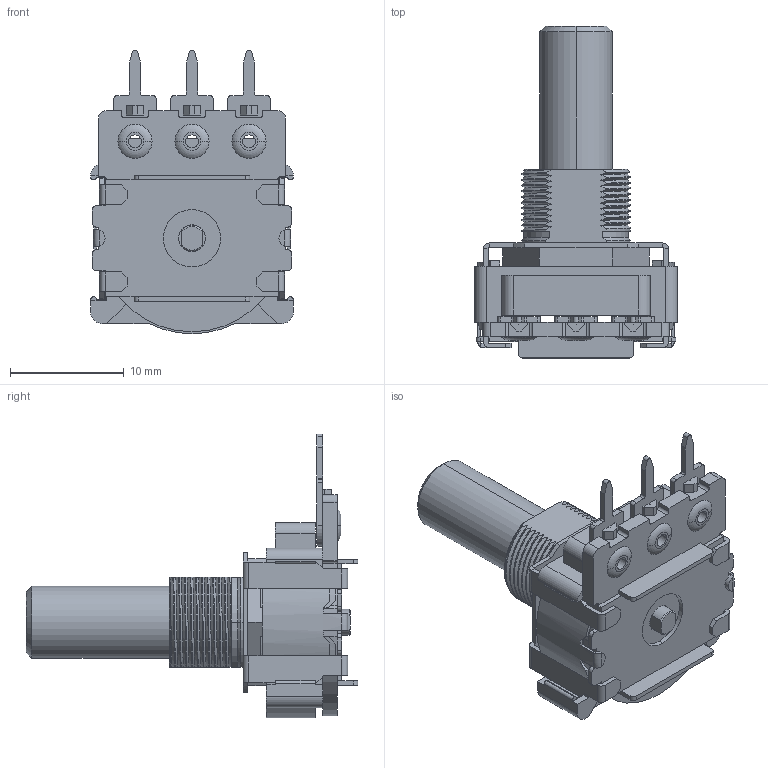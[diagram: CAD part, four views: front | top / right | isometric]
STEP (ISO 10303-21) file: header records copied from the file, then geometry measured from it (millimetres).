
FILE_DESCRIPTION (( 'STEP AP214' ), '1' );
FILE_NAME ('288X224R161A2.STEP', '2019-05-24T08:38:06', ( '' ), ( '' ), 'SwSTEP 2.0', 'SolidWorks 2019', '' );
FILE_SCHEMA (( 'AUTOMOTIVE_DESIGN' ));
Length unit declared in the file: millimetre
Products named in the file (8): 288S-ER-11424-24; 280-07-001-01-53; 280-18-001-01-37(Roll over); 280E-E-2300; 280-01-016-30-01(.093); 288X224R161A2; 280-08-T01; 280-02-T06-40-01B
Assembly tree (10 placements, depth 2):
  288X224R161A2
    280-02-T06-40-01B
    280-01-016-30-01(.093)
    280-18-001-01-37(Roll over)  x4
    280-07-001-01-53
    280E-E-2300
    280-08-T01
    288S-ER-11424-24
Bounding box: 17.78 x 29.13 x 24.89 mm (x, y, z)
Volume: 2136.8 mm3; surface area: 4211.7 mm2
Topology: 10 solids, 10 shells, 673 faces, 1884 edges, 1234 vertices
Faces by surface type: plane 386, cylinder 191, bspline 62, torus 18, cone 16
Entity records: 32080 total; most frequent: CARTESIAN_POINT 17980, ORIENTED_EDGE 3102, DIRECTION 2636, EDGE_CURVE 1551, VERTEX_POINT 1018, VECTOR 956, LINE 956, AXIS2_PLACEMENT_3D 840
